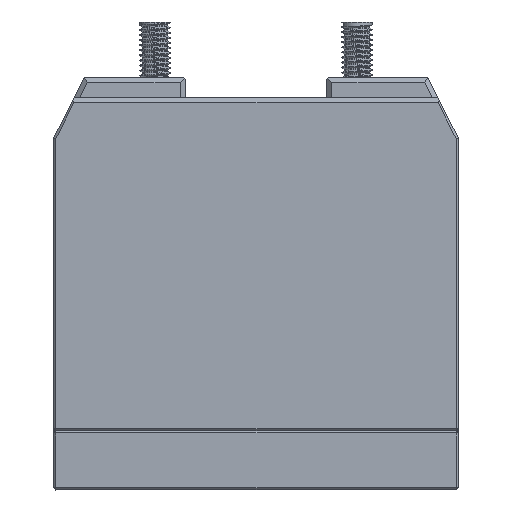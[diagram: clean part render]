
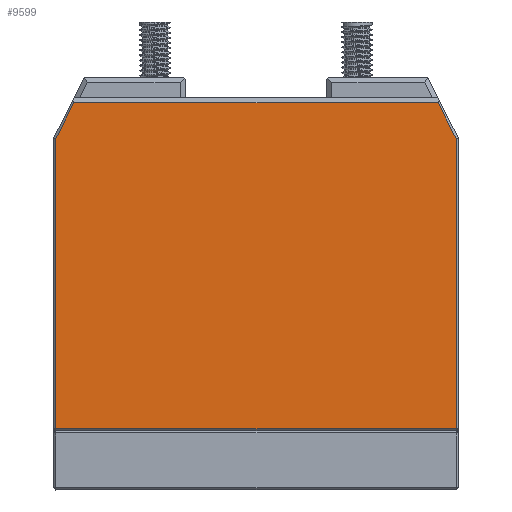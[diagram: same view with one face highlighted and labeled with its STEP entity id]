
A CAD part, top view. The second image highlights one B-rep face of the part: STEP entity #9599.
In plain terms, the highlighted planar face has unit normal (0, 0, 1).
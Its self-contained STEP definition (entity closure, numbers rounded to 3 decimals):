
#58 = CARTESIAN_POINT ( 'NONE',  ( -24.897, 45.626, 53.85 ) ) ;
#166 = DIRECTION ( 'NONE',  ( -1., 0., 0. ) ) ;
#1278 = EDGE_CURVE ( 'NONE', #23296, #19460, #13813, .T. ) ;
#1408 = CARTESIAN_POINT ( 'NONE',  ( -5.097, 29.626, 53.85 ) ) ;
#1526 = DIRECTION ( 'NONE',  ( 0., 1., 0. ) ) ;
#2032 = VERTEX_POINT ( 'NONE', #26780 ) ;
#4360 = CARTESIAN_POINT ( 'NONE',  ( -44.697, 42.079, 53.85 ) ) ;
#6481 = VERTEX_POINT ( 'NONE', #13849 ) ;
#6788 = LINE ( 'NONE', #58, #34018 ) ;
#6945 = DIRECTION ( 'NONE',  ( 0., -1., 0. ) ) ;
#7531 = VECTOR ( 'NONE', #6945, 1000. ) ;
#7600 = CARTESIAN_POINT ( 'NONE',  ( -6.87, 45.626, 53.85 ) ) ;
#8067 = FACE_OUTER_BOUND ( 'NONE', #14432, .T. ) ;
#8740 = DIRECTION ( 'NONE',  ( -0.447, 0.894, 0. ) ) ;
#9416 = DIRECTION ( 'NONE',  ( 0., 0., 1. ) ) ;
#9599 = ADVANCED_FACE ( 'NONE', ( #8067 ), #25209, .T. ) ;
#10035 = EDGE_CURVE ( 'NONE', #34010, #6481, #6788, .T. ) ;
#11730 = EDGE_CURVE ( 'NONE', #19460, #2032, #12103, .T. ) ;
#11793 = VECTOR ( 'NONE', #17644, 1000. ) ;
#12103 = LINE ( 'NONE', #1408, #16676 ) ;
#12959 = ORIENTED_EDGE ( 'NONE', *, *, #11730, .T. ) ;
#13630 = EDGE_CURVE ( 'NONE', #26472, #23296, #21607, .T. ) ;
#13813 = LINE ( 'NONE', #24163, #33166 ) ;
#13849 = CARTESIAN_POINT ( 'NONE',  ( -42.923, 45.626, 53.85 ) ) ;
#14432 = EDGE_LOOP ( 'NONE', ( #16551, #20548, #27774, #12959, #18616, #17252 ) ) ;
#16551 = ORIENTED_EDGE ( 'NONE', *, *, #29268, .T. ) ;
#16676 = VECTOR ( 'NONE', #1526, 1000. ) ;
#17252 = ORIENTED_EDGE ( 'NONE', *, *, #10035, .T. ) ;
#17644 = DIRECTION ( 'NONE',  ( -0.447, -0.894, 0. ) ) ;
#18616 = ORIENTED_EDGE ( 'NONE', *, *, #32096, .T. ) ;
#18844 = LINE ( 'NONE', #20191, #11793 ) ;
#19460 = VERTEX_POINT ( 'NONE', #31293 ) ;
#20191 = CARTESIAN_POINT ( 'NONE',  ( -42.923, 45.626, 53.85 ) ) ;
#20548 = ORIENTED_EDGE ( 'NONE', *, *, #13630, .T. ) ;
#21607 = LINE ( 'NONE', #22857, #7531 ) ;
#21952 = CARTESIAN_POINT ( 'NONE',  ( -44.697, 13.326, 53.85 ) ) ;
#22798 = VECTOR ( 'NONE', #8740, 1000. ) ;
#22857 = CARTESIAN_POINT ( 'NONE',  ( -44.697, 29.626, 53.85 ) ) ;
#23296 = VERTEX_POINT ( 'NONE', #21952 ) ;
#24163 = CARTESIAN_POINT ( 'NONE',  ( -24.897, 13.326, 53.85 ) ) ;
#24520 = CARTESIAN_POINT ( 'NONE',  ( -5.097, 42.079, 53.85 ) ) ;
#25209 = PLANE ( 'NONE',  #28824 ) ;
#26472 = VERTEX_POINT ( 'NONE', #4360 ) ;
#26780 = CARTESIAN_POINT ( 'NONE',  ( -5.097, 42.079, 53.85 ) ) ;
#26821 = DIRECTION ( 'NONE',  ( 1., 0., 0. ) ) ;
#27774 = ORIENTED_EDGE ( 'NONE', *, *, #1278, .T. ) ;
#27886 = DIRECTION ( 'NONE',  ( 1., 0., 0. ) ) ;
#28824 = AXIS2_PLACEMENT_3D ( 'NONE', #33063, #9416, #27886 ) ;
#29268 = EDGE_CURVE ( 'NONE', #6481, #26472, #18844, .T. ) ;
#29856 = LINE ( 'NONE', #24520, #22798 ) ;
#31293 = CARTESIAN_POINT ( 'NONE',  ( -5.097, 13.326, 53.85 ) ) ;
#32096 = EDGE_CURVE ( 'NONE', #2032, #34010, #29856, .T. ) ;
#33063 = CARTESIAN_POINT ( 'NONE',  ( -24.897, 29.626, 53.85 ) ) ;
#33166 = VECTOR ( 'NONE', #26821, 1000. ) ;
#34010 = VERTEX_POINT ( 'NONE', #7600 ) ;
#34018 = VECTOR ( 'NONE', #166, 1000. ) ;
